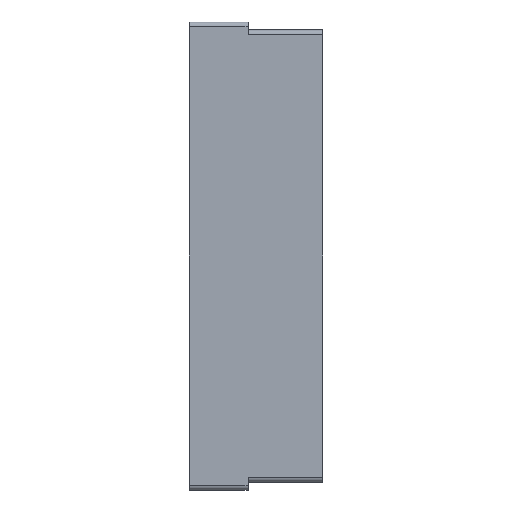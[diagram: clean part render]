
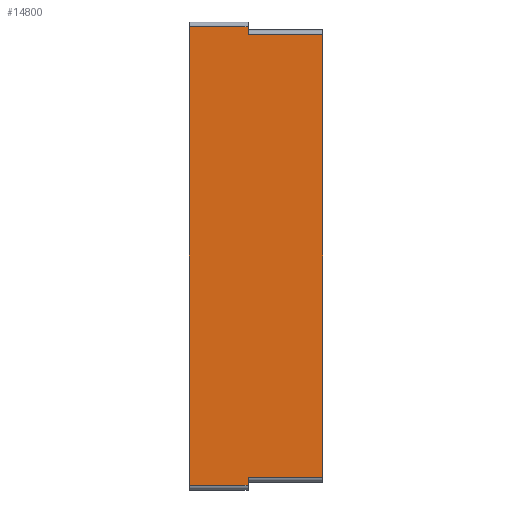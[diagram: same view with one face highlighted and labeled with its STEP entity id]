
A CAD part, left-side view. The second image highlights one B-rep face of the part: STEP entity #14800.
In plain terms, the highlighted planar face has unit normal (-1, 0, 0).
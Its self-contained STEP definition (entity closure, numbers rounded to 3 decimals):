
#14128=CARTESIAN_POINT('Vertex',(0.,0.,-24.5)) ;
#14135=CARTESIAN_POINT('Vertex',(0.,-6.3,-24.5)) ;
#14138=CARTESIAN_POINT('Line Origine',(0.,-7.15,-24.5)) ;
#14159=CARTESIAN_POINT('Vertex',(0.,-6.3,-23.65)) ;
#14175=CARTESIAN_POINT('Vertex',(0.,-14.3,-23.65)) ;
#14178=CARTESIAN_POINT('Line Origine',(0.,-7.15,-23.65)) ;
#14457=CARTESIAN_POINT('Vertex',(0.,0.,24.5)) ;
#14460=CARTESIAN_POINT('Line Origine',(0.,-7.15,24.5)) ;
#14464=CARTESIAN_POINT('Vertex',(0.,-6.3,24.5)) ;
#14484=CARTESIAN_POINT('Line Origine',(0.,-6.3,24.075)) ;
#14488=CARTESIAN_POINT('Vertex',(0.,-6.3,23.65)) ;
#14503=CARTESIAN_POINT('Line Origine',(0.,-6.3,-24.075)) ;
#14556=CARTESIAN_POINT('Line Origine',(0.,-14.3,0.)) ;
#14560=CARTESIAN_POINT('Vertex',(0.,-14.3,23.65)) ;
#14775=CARTESIAN_POINT('Axis2P3D Location',(0.,-14.3,0.)) ;
#14780=CARTESIAN_POINT('Line Origine',(0.,0.,0.)) ;
#14785=CARTESIAN_POINT('Line Origine',(0.,-10.3,23.65)) ;
#14139=DIRECTION('Vector Direction',(0.,-1.,0.)) ;
#14179=DIRECTION('Vector Direction',(0.,-1.,0.)) ;
#14461=DIRECTION('Vector Direction',(0.,-1.,0.)) ;
#14485=DIRECTION('Vector Direction',(0.,0.,1.)) ;
#14504=DIRECTION('Vector Direction',(0.,0.,1.)) ;
#14557=DIRECTION('Vector Direction',(0.,0.,-1.)) ;
#14776=DIRECTION('Axis2P3D Direction',(-1.,0.,0.)) ;
#14777=DIRECTION('Axis2P3D XDirection',(0.,1.,0.)) ;
#14781=DIRECTION('Vector Direction',(0.,0.,-1.)) ;
#14786=DIRECTION('Vector Direction',(0.,-1.,0.)) ;
#14778=AXIS2_PLACEMENT_3D('Plane Axis2P3D',#14775,#14776,#14777) ;
#14791=ORIENTED_EDGE('',*,*,#14490,.F.) ;
#14792=ORIENTED_EDGE('',*,*,#14466,.T.) ;
#14793=ORIENTED_EDGE('',*,*,#14784,.T.) ;
#14794=ORIENTED_EDGE('',*,*,#14142,.F.) ;
#14795=ORIENTED_EDGE('',*,*,#14507,.F.) ;
#14796=ORIENTED_EDGE('',*,*,#14182,.F.) ;
#14797=ORIENTED_EDGE('',*,*,#14562,.F.) ;
#14798=ORIENTED_EDGE('',*,*,#14789,.T.) ;
#14140=VECTOR('Line Direction',#14139,1.) ;
#14180=VECTOR('Line Direction',#14179,1.) ;
#14462=VECTOR('Line Direction',#14461,1.) ;
#14486=VECTOR('Line Direction',#14485,1.) ;
#14505=VECTOR('Line Direction',#14504,1.) ;
#14558=VECTOR('Line Direction',#14557,1.) ;
#14782=VECTOR('Line Direction',#14781,1.) ;
#14787=VECTOR('Line Direction',#14786,1.) ;
#14800=ADVANCED_FACE('\X2\96F64EF651E04F554F53\X0\',(#14799),#14779,.T.) ;
#14142=EDGE_CURVE('',#14136,#14129,#14141,.F.) ;
#14182=EDGE_CURVE('',#14176,#14160,#14181,.F.) ;
#14466=EDGE_CURVE('',#14465,#14458,#14463,.F.) ;
#14490=EDGE_CURVE('',#14465,#14489,#14487,.F.) ;
#14507=EDGE_CURVE('',#14160,#14136,#14506,.F.) ;
#14562=EDGE_CURVE('',#14561,#14176,#14559,.T.) ;
#14784=EDGE_CURVE('',#14458,#14129,#14783,.T.) ;
#14789=EDGE_CURVE('',#14561,#14489,#14788,.F.) ;
#14790=EDGE_LOOP('',(#14791,#14792,#14793,#14794,#14795,#14796,#14797,#14798)) ;
#14799=FACE_OUTER_BOUND('',#14790,.T.) ;
#14141=LINE('Line',#14138,#14140) ;
#14181=LINE('Line',#14178,#14180) ;
#14463=LINE('Line',#14460,#14462) ;
#14487=LINE('Line',#14484,#14486) ;
#14506=LINE('Line',#14503,#14505) ;
#14559=LINE('Line',#14556,#14558) ;
#14783=LINE('Line',#14780,#14782) ;
#14788=LINE('Line',#14785,#14787) ;
#14779=PLANE('Plane',#14778) ;
#14129=VERTEX_POINT('',#14128) ;
#14136=VERTEX_POINT('',#14135) ;
#14160=VERTEX_POINT('',#14159) ;
#14176=VERTEX_POINT('',#14175) ;
#14458=VERTEX_POINT('',#14457) ;
#14465=VERTEX_POINT('',#14464) ;
#14489=VERTEX_POINT('',#14488) ;
#14561=VERTEX_POINT('',#14560) ;
